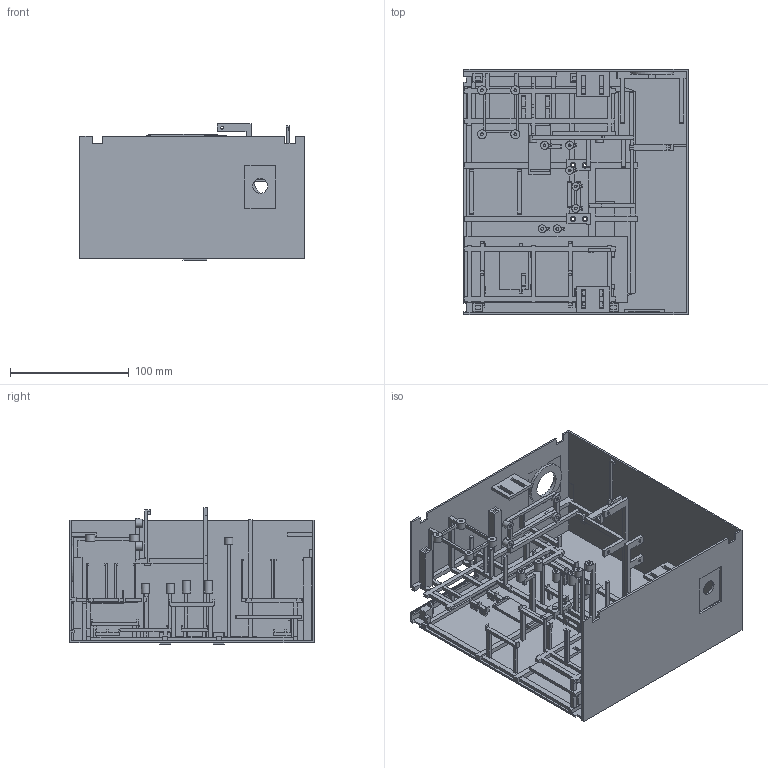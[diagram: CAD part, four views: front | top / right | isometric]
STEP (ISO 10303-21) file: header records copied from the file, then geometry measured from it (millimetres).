
FILE_DESCRIPTION(('Open CASCADE Model'),'2;1');
FILE_NAME('Open CASCADE Shape Model','2026-11-19T20:40:08',('Author'),( 'Open CASCADE'),'Open CASCADE STEP processor 8.0','Open CASCADE 8.0' ,'Unknown');
FILE_SCHEMA(('AUTOMOTIVE_DESIGN { 1 0 10303 214 1 1 1 1 }'));
Products named in the file (1): Open CASCADE STEP translator 8.0 1
Bounding box: 188.85 x 206 x 114.78 mm (x, y, z)
Volume: 250106.7 mm3; surface area: 277729.2 mm2
Topology: 1 solids, 1 shells, 1484 faces, 4390 edges, 2929 vertices
Faces by surface type: plane 1429, cylinder 43, cone 9, bspline 3
Full cylindrical faces by diameter (mm): 2.24 x4, 2.3 x8, 2.36 x7, 2.8 x4, 6.6 x7, 6.9 x4, 7.6 x4, 12.5 x1, 22.8 x1, 23 x1, 36 x1
Entity records: 103290 total; most frequent: CARTESIAN_POINT 21767, DIRECTION 12826, LINE 9305, VECTOR 9305, ORIENTED_EDGE 8780, PCURVE 8780, DEFINITIONAL_REPRESENTATION 8780, EDGE_CURVE 4390
